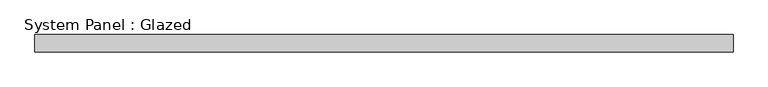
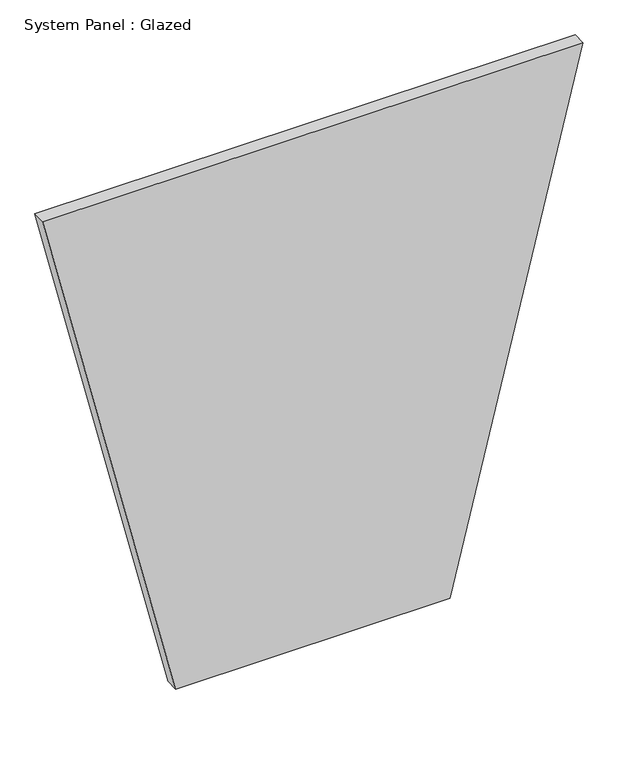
"""IFC4 building model written with IfcOpenShell, lengths in millimetres: plate geometry, System Panel : Glazed."""

from ifc_helpers import new_model, si_unit, frame, origin, place, context, project, spatial, polyline, outline, extrude, source, transform, mapped, element, save


def system_panel_glazed_405752de(model_context):
    return source(origin(), model_context, "Body", "SweptSolid", [
        extrude(outline(polyline([(0.0, -263.0068887), (0.0, 263.0068887), (1035.8868487, 517.9591915), (1035.8868487, -517.9591915), (0.0, -263.0068887)])), frame((0.0, -44.45, 0.0), z_axis=(0.0, 1.0, 0.0), x_axis=(0.0, 0.0, 1.0)), (0.0, 0.0, 1.0), 25.4),
    ])


if __name__ == "__main__":
    model = new_model("IFC4")
    model_context = context("Model", 3, world=origin())
    ifc_project = project(units=[si_unit("LENGTHUNIT", "METRE", prefix="MILLI")], contexts=[model_context])
    site = spatial("IfcSite", under=ifc_project)
    building = spatial("IfcBuilding", under=site)
    placement = place(None, origin())
    system_panel_glazed_shape = system_panel_glazed_405752de(model_context)
    element("IfcPlate", 1, ObjectType="System Panel : Glazed", at=placement, inside=building, context=model_context, shape_type="MappedRepresentation", body=[
        mapped(system_panel_glazed_shape, transform((0.0, 0.0, 0.0), x_axis=(1.0, 0.0, 0.0), y_axis=(0.0, 1.0, 0.0), z_axis=(0.0, 0.0, 1.0))),
    ])
    save(model, "model.ifc")
